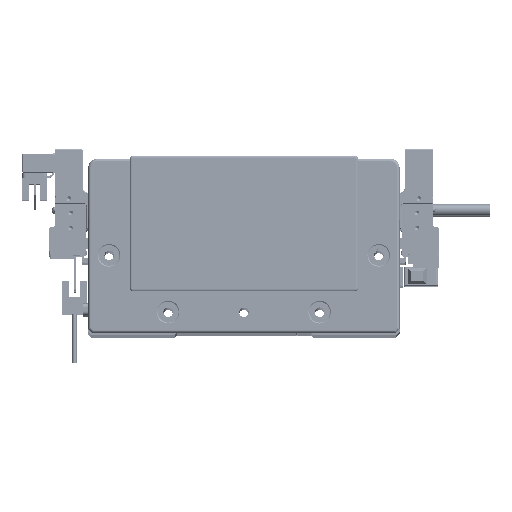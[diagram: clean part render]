
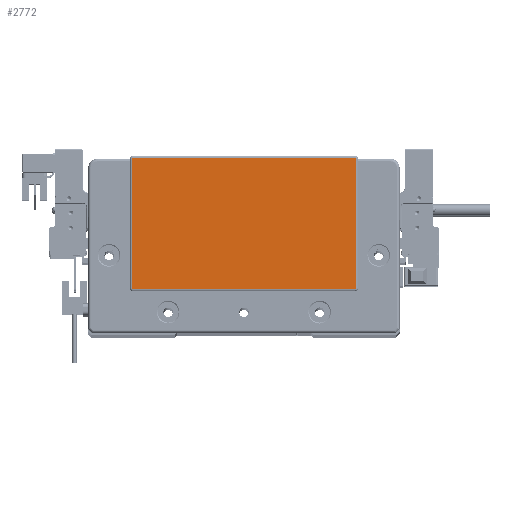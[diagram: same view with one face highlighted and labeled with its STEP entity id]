
A CAD part, top view. The second image highlights one B-rep face of the part: STEP entity #2772.
In plain terms, the highlighted planar face has unit normal (0, 0, 1) as drawn and (0, 0, -1) by its records, which use the part's own axes.
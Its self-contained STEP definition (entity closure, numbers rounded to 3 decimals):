
#208 = DIRECTION ( 'NONE',  ( -1., 0., 0. ) ) ;
#329 = VERTEX_POINT ( 'NONE', #99143 ) ;
#2545 = DIRECTION ( 'NONE',  ( 0., 0., -1. ) ) ;
#2772 = ADVANCED_FACE ( 'NONE', ( #16345 ), #78186, .T. ) ;
#4684 = ORIENTED_EDGE ( 'NONE', *, *, #84111, .T. ) ;
#6459 = LINE ( 'NONE', #31151, #71552 ) ;
#7359 = DIRECTION ( 'NONE',  ( 0., 0., -1. ) ) ;
#7879 = LINE ( 'NONE', #73224, #103023 ) ;
#9492 = VERTEX_POINT ( 'NONE', #38945 ) ;
#14222 = DIRECTION ( 'NONE',  ( 1., 0., 0. ) ) ;
#14364 = DIRECTION ( 'NONE',  ( 0., -1., 0. ) ) ;
#14752 = ORIENTED_EDGE ( 'NONE', *, *, #71057, .T. ) ;
#15948 = ORIENTED_EDGE ( 'NONE', *, *, #76520, .T. ) ;
#16050 = EDGE_CURVE ( 'NONE', #29744, #9492, #71294, .T. ) ;
#16345 = FACE_OUTER_BOUND ( 'NONE', #24476, .T. ) ;
#18421 = DIRECTION ( 'NONE',  ( 0., 0., -1. ) ) ;
#21004 = VERTEX_POINT ( 'NONE', #75850 ) ;
#22159 = CARTESIAN_POINT ( 'NONE',  ( 59.25, 45.3, -2. ) ) ;
#23412 = AXIS2_PLACEMENT_3D ( 'NONE', #43142, #18421, #75336 ) ;
#24476 = EDGE_LOOP ( 'NONE', ( #93974, #54990, #94108, #15948, #99414, #4684, #76835, #14752 ) ) ;
#24570 = CARTESIAN_POINT ( 'NONE',  ( -59.25, 45.3, -2. ) ) ;
#25909 = EDGE_CURVE ( 'NONE', #38515, #21004, #6459, .T. ) ;
#27702 = AXIS2_PLACEMENT_3D ( 'NONE', #69750, #45469, #48482 ) ;
#29744 = VERTEX_POINT ( 'NONE', #80977 ) ;
#31151 = CARTESIAN_POINT ( 'NONE',  ( 59.25, -23.3, -2. ) ) ;
#32238 = CARTESIAN_POINT ( 'NONE',  ( -58.75, -23.8, -2. ) ) ;
#32514 = AXIS2_PLACEMENT_3D ( 'NONE', #57599, #89749, #208 ) ;
#34467 = CIRCLE ( 'NONE', #103507, 0.5 ) ;
#35203 = EDGE_CURVE ( 'NONE', #21004, #29744, #96530, .T. ) ;
#35886 = VERTEX_POINT ( 'NONE', #46820 ) ;
#38515 = VERTEX_POINT ( 'NONE', #22159 ) ;
#38945 = CARTESIAN_POINT ( 'NONE',  ( -58.75, -23.8, -2. ) ) ;
#40385 = VECTOR ( 'NONE', #14222, 1000. ) ;
#43142 = CARTESIAN_POINT ( 'NONE',  ( -58.75, 45.3, -2. ) ) ;
#45469 = DIRECTION ( 'NONE',  ( 0., 0., -1. ) ) ;
#45881 = EDGE_CURVE ( 'NONE', #35886, #95850, #7879, .T. ) ;
#46820 = CARTESIAN_POINT ( 'NONE',  ( -59.25, -23.3, -2. ) ) ;
#48420 = DIRECTION ( 'NONE',  ( 0., 1., 0. ) ) ;
#48482 = DIRECTION ( 'NONE',  ( -1., 0., 0. ) ) ;
#54946 = DIRECTION ( 'NONE',  ( -1., 0., 0. ) ) ;
#54990 = ORIENTED_EDGE ( 'NONE', *, *, #35203, .T. ) ;
#57599 = CARTESIAN_POINT ( 'NONE',  ( 58.75, -23.3, -2. ) ) ;
#60105 = VERTEX_POINT ( 'NONE', #64598 ) ;
#61030 = EDGE_CURVE ( 'NONE', #60105, #329, #85380, .T. ) ;
#64598 = CARTESIAN_POINT ( 'NONE',  ( -58.75, 45.8, -2. ) ) ;
#65814 = CARTESIAN_POINT ( 'NONE',  ( -58.75, -23.3, -2. ) ) ;
#69750 = CARTESIAN_POINT ( 'NONE',  ( 0., 0., -2. ) ) ;
#71057 = EDGE_CURVE ( 'NONE', #329, #38515, #34467, .T. ) ;
#71294 = LINE ( 'NONE', #32238, #88906 ) ;
#71552 = VECTOR ( 'NONE', #14364, 1000. ) ;
#73224 = CARTESIAN_POINT ( 'NONE',  ( -59.25, 45.3, -2. ) ) ;
#75336 = DIRECTION ( 'NONE',  ( -1., 0., 0. ) ) ;
#75850 = CARTESIAN_POINT ( 'NONE',  ( 59.25, -23.3, -2. ) ) ;
#76520 = EDGE_CURVE ( 'NONE', #9492, #35886, #97568, .T. ) ;
#76835 = ORIENTED_EDGE ( 'NONE', *, *, #61030, .T. ) ;
#77987 = CARTESIAN_POINT ( 'NONE',  ( 58.75, 45.8, -2. ) ) ;
#78186 = PLANE ( 'NONE',  #27702 ) ;
#79562 = CARTESIAN_POINT ( 'NONE',  ( 58.75, 45.3, -2. ) ) ;
#80977 = CARTESIAN_POINT ( 'NONE',  ( 58.75, -23.8, -2. ) ) ;
#82152 = DIRECTION ( 'NONE',  ( -1., 0., 0. ) ) ;
#82354 = CIRCLE ( 'NONE', #23412, 0.5 ) ;
#84111 = EDGE_CURVE ( 'NONE', #95850, #60105, #82354, .T. ) ;
#85380 = LINE ( 'NONE', #77987, #40385 ) ;
#88906 = VECTOR ( 'NONE', #54946, 1000. ) ;
#89142 = AXIS2_PLACEMENT_3D ( 'NONE', #65814, #2545, #82152 ) ;
#89749 = DIRECTION ( 'NONE',  ( 0., 0., -1. ) ) ;
#93974 = ORIENTED_EDGE ( 'NONE', *, *, #25909, .T. ) ;
#94108 = ORIENTED_EDGE ( 'NONE', *, *, #16050, .T. ) ;
#95850 = VERTEX_POINT ( 'NONE', #24570 ) ;
#95879 = DIRECTION ( 'NONE',  ( -1., 0., 0. ) ) ;
#96530 = CIRCLE ( 'NONE', #32514, 0.5 ) ;
#97568 = CIRCLE ( 'NONE', #89142, 0.5 ) ;
#99143 = CARTESIAN_POINT ( 'NONE',  ( 58.75, 45.8, -2. ) ) ;
#99414 = ORIENTED_EDGE ( 'NONE', *, *, #45881, .T. ) ;
#103023 = VECTOR ( 'NONE', #48420, 1000. ) ;
#103507 = AXIS2_PLACEMENT_3D ( 'NONE', #79562, #7359, #95879 ) ;
